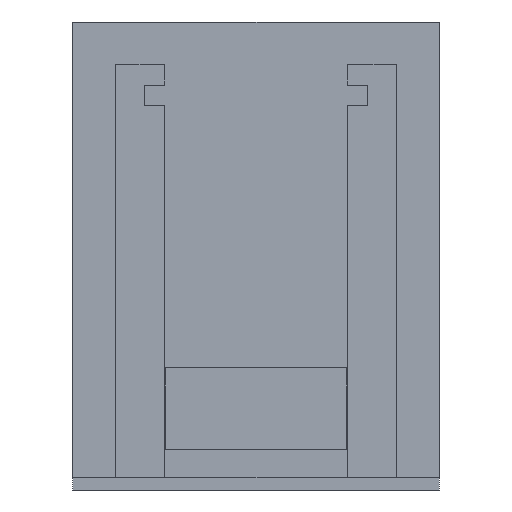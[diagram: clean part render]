
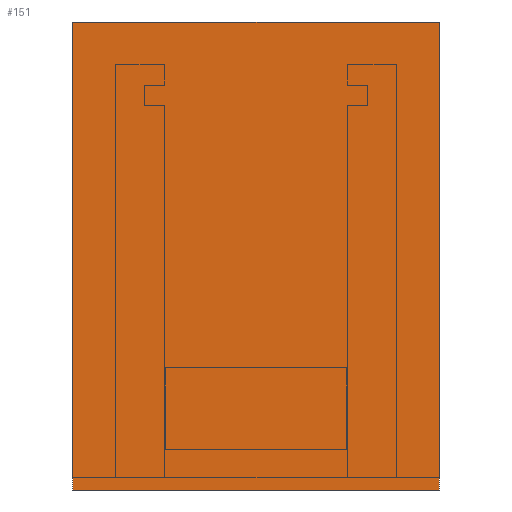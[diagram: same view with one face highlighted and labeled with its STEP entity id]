
A CAD part, left-side view. The second image highlights one B-rep face of the part: STEP entity #151.
In plain terms, the highlighted planar face has unit normal (-1, 0, 0).
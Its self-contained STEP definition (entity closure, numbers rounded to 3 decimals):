
#23 = EDGE_CURVE ( 'NONE', #1597, #1600, #1138, .T. ) ;
#151 = ADVANCED_FACE ( 'NONE', ( #421 ), #589, .T. ) ;
#192 = LINE ( 'NONE', #576, #196 ) ;
#196 = VECTOR ( 'NONE', #566, 1000. ) ;
#201 = LINE ( 'NONE', #555, #204 ) ;
#204 = VECTOR ( 'NONE', #551, 1000. ) ;
#279 = LINE ( 'NONE', #1866, #282 ) ;
#282 = VECTOR ( 'NONE', #1870, 1000. ) ;
#421 = FACE_OUTER_BOUND ( 'NONE', #1290, .T. ) ;
#466 = ORIENTED_EDGE ( 'NONE', *, *, #1093, .T. ) ;
#485 = ORIENTED_EDGE ( 'NONE', *, *, #1054, .T. ) ;
#486 = ORIENTED_EDGE ( 'NONE', *, *, #23, .T. ) ;
#493 = ORIENTED_EDGE ( 'NONE', *, *, #1050, .T. ) ;
#551 = DIRECTION ( 'NONE',  ( 0., 0., -1. ) ) ;
#555 = CARTESIAN_POINT ( 'NONE',  ( -160., 45., -31.5 ) ) ;
#566 = DIRECTION ( 'NONE',  ( 0., 0., 1. ) ) ;
#576 = CARTESIAN_POINT ( 'NONE',  ( -160., -45., -31.5 ) ) ;
#579 = DIRECTION ( 'NONE',  ( 0., 0., 1. ) ) ;
#583 = DIRECTION ( 'NONE',  ( -1., 0., 0. ) ) ;
#589 = PLANE ( 'NONE',  #1410 ) ;
#619 = CARTESIAN_POINT ( 'NONE',  ( -160., 0., 1.5 ) ) ;
#1050 = EDGE_CURVE ( 'NONE', #1600, #1258, #192, .T. ) ;
#1054 = EDGE_CURVE ( 'NONE', #1250, #1597, #201, .T. ) ;
#1093 = EDGE_CURVE ( 'NONE', #1258, #1250, #279, .T. ) ;
#1138 = LINE ( 'NONE', #1699, #1144 ) ;
#1144 = VECTOR ( 'NONE', #1692, 1000. ) ;
#1250 = VERTEX_POINT ( 'NONE', #1858 ) ;
#1258 = VERTEX_POINT ( 'NONE', #2049 ) ;
#1290 = EDGE_LOOP ( 'NONE', ( #486, #493, #466, #485 ) ) ;
#1410 = AXIS2_PLACEMENT_3D ( 'NONE', #619, #583, #579 ) ;
#1597 = VERTEX_POINT ( 'NONE', #1935 ) ;
#1600 = VERTEX_POINT ( 'NONE', #1932 ) ;
#1692 = DIRECTION ( 'NONE',  ( 0., -1., 0. ) ) ;
#1699 = CARTESIAN_POINT ( 'NONE',  ( -160., 0., -33. ) ) ;
#1858 = CARTESIAN_POINT ( 'NONE',  ( -160., 45., 82. ) ) ;
#1866 = CARTESIAN_POINT ( 'NONE',  ( -160., 45., 82. ) ) ;
#1870 = DIRECTION ( 'NONE',  ( 0., 1., 0. ) ) ;
#1932 = CARTESIAN_POINT ( 'NONE',  ( -160., -45., -33. ) ) ;
#1935 = CARTESIAN_POINT ( 'NONE',  ( -160., 45., -33. ) ) ;
#2049 = CARTESIAN_POINT ( 'NONE',  ( -160., -45., 82. ) ) ;
